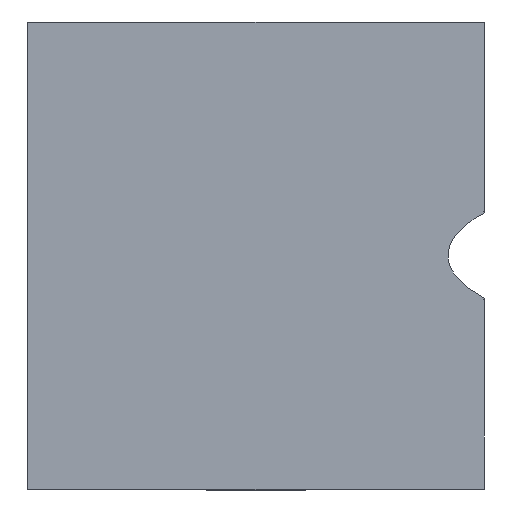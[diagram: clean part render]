
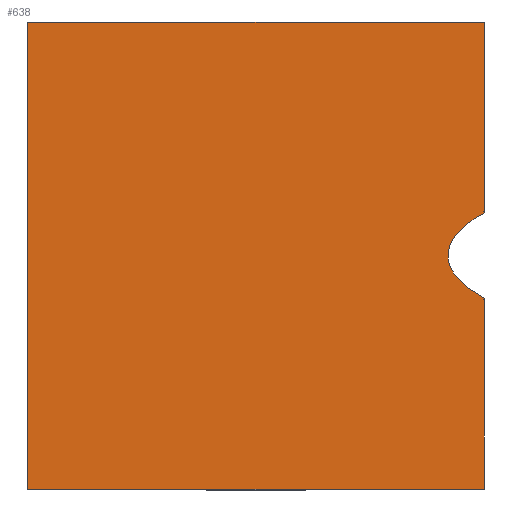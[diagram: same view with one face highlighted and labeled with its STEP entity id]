
A CAD part, top view. The second image highlights one B-rep face of the part: STEP entity #638.
In plain terms, the highlighted planar face has unit normal (0, 0, 1).
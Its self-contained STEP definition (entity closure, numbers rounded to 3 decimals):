
#33=CARTESIAN_POINT('',(22.,-4.116,0.));
#34=CARTESIAN_POINT('',(21.348,-3.773,0.));
#35=CARTESIAN_POINT('',(20.289,-3.087,0.));
#36=CARTESIAN_POINT('',(18.888,-1.715,0.));
#37=CARTESIAN_POINT('',(18.247,0.,0.));
#38=CARTESIAN_POINT('',(18.888,1.715,0.));
#39=CARTESIAN_POINT('',(20.289,3.087,0.));
#40=CARTESIAN_POINT('',(21.348,3.773,0.));
#41=CARTESIAN_POINT('',(22.,4.116,0.));
#43=DIRECTION('',(-1.,0.,0.));
#44=VECTOR('',#43,44.);
#45=CARTESIAN_POINT('',(22.,-22.5,0.));
#46=LINE('',#45,#44);
#47=DIRECTION('',(1.,0.,0.));
#48=VECTOR('',#47,44.);
#49=CARTESIAN_POINT('',(-22.,22.5,0.));
#50=LINE('',#49,#48);
#100=DIRECTION('',(0.,1.,0.));
#101=VECTOR('',#100,18.384);
#102=CARTESIAN_POINT('',(22.,4.116,0.));
#103=LINE('',#102,#101);
#104=DIRECTION('',(0.,1.,0.));
#105=VECTOR('',#104,18.384);
#106=CARTESIAN_POINT('',(22.,-22.5,0.));
#107=LINE('',#106,#105);
#222=DIRECTION('',(0.,1.,0.));
#223=VECTOR('',#222,45.);
#224=CARTESIAN_POINT('',(-22.,-22.5,0.));
#225=LINE('',#224,#223);
#477=CARTESIAN_POINT('',(22.,-22.5,0.));
#479=VERTEX_POINT('',#477);
#481=CARTESIAN_POINT('',(22.,22.5,0.));
#483=VERTEX_POINT('',#481);
#505=CARTESIAN_POINT('',(-22.,-22.5,0.));
#507=VERTEX_POINT('',#505);
#509=CARTESIAN_POINT('',(-22.,22.5,0.));
#511=VERTEX_POINT('',#509);
#547=VERTEX_POINT('',#33);
#548=VERTEX_POINT('',#41);
#621=CARTESIAN_POINT('',(0.,-22.5,0.));
#622=DIRECTION('',(0.,0.,1.));
#623=DIRECTION('',(1.,0.,0.));
#624=AXIS2_PLACEMENT_3D('',#621,#622,#623);
#625=PLANE('',#624);
#627=ORIENTED_EDGE('',*,*,#626,.F.);
#629=ORIENTED_EDGE('',*,*,#628,.F.);
#630=ORIENTED_EDGE('',*,*,#584,.T.);
#632=ORIENTED_EDGE('',*,*,#631,.T.);
#633=ORIENTED_EDGE('',*,*,#611,.T.);
#635=ORIENTED_EDGE('',*,*,#634,.F.);
#636=EDGE_LOOP('',(#627,#629,#630,#632,#633,#635));
#637=FACE_OUTER_BOUND('',#636,.F.);
#638=ADVANCED_FACE('',(#637),#625,.T.);
#42=B_SPLINE_CURVE_WITH_KNOTS('',3,(#33,#34,#35,#36,#37,#38,#39,#40,#41),
.UNSPECIFIED.,.F.,.F.,(4,1,1,1,1,1,4),(0.,0.125,0.25,0.5,0.75,0.875,
1.),.UNSPECIFIED.);
#584=EDGE_CURVE('',#479,#507,#46,.T.);
#611=EDGE_CURVE('',#511,#483,#50,.T.);
#626=EDGE_CURVE('',#547,#548,#42,.T.);
#628=EDGE_CURVE('',#479,#547,#107,.T.);
#631=EDGE_CURVE('',#507,#511,#225,.T.);
#634=EDGE_CURVE('',#548,#483,#103,.T.);
